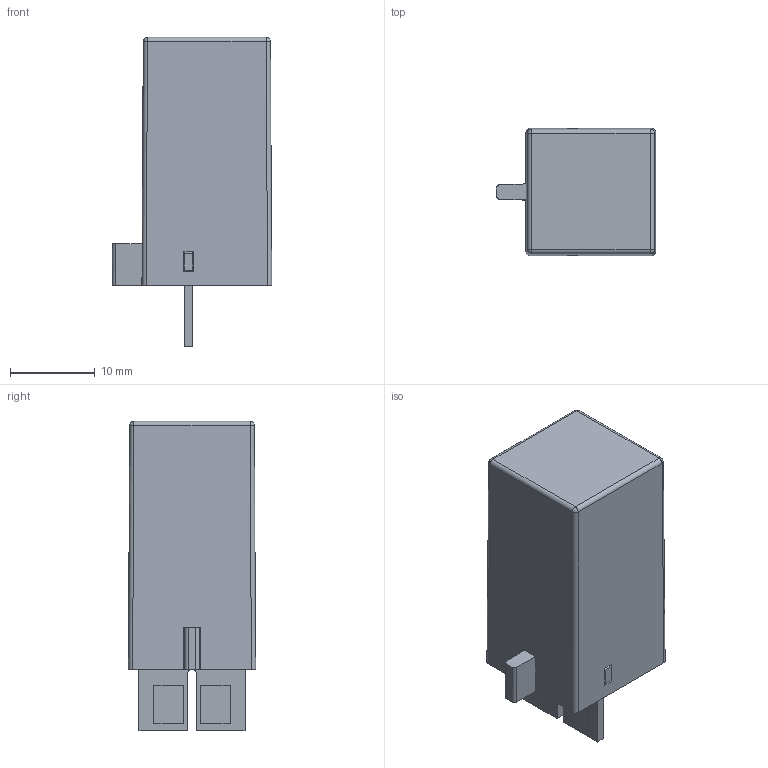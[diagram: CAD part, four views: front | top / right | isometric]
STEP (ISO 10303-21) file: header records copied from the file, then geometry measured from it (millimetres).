
FILE_DESCRIPTION(('STEP AP214'), '1');
FILE_NAME('Ìîäóëü çàùèòû è èíäèêàöèè ñåðèè Ì30 (íà ïîêàç)', '', ('UNSPECIFIED'), ('UNSPECIFIED'), 'ASCON STEP Converter 1.6', 'ASCON Math Kernel', '');
FILE_SCHEMA(('AUTOMOTIVE_DESIGN { 1 0 10303 214 3 1 1}'));
Length unit declared in the file: millimetre
Bounding box: 18.8 x 15 x 36.45 mm (x, y, z)
Volume: 2112.9 mm3; surface area: 4747.9 mm2
Topology: 1 solids, 1 shells, 110 faces, 290 edges, 184 vertices
Faces by surface type: plane 73, cylinder 29, bspline 8
Entity records: 4779 total; most frequent: CARTESIAN_POINT 1221, ORIENTED_EDGE 572, DIRECTION 510, EDGE_CURVE 286, LINE 220, VECTOR 220, VERTEX_POINT 184, AXIS2_PLACEMENT_3D 145
